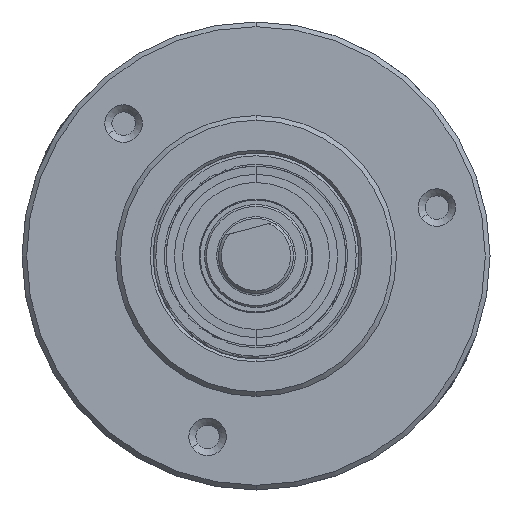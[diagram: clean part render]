
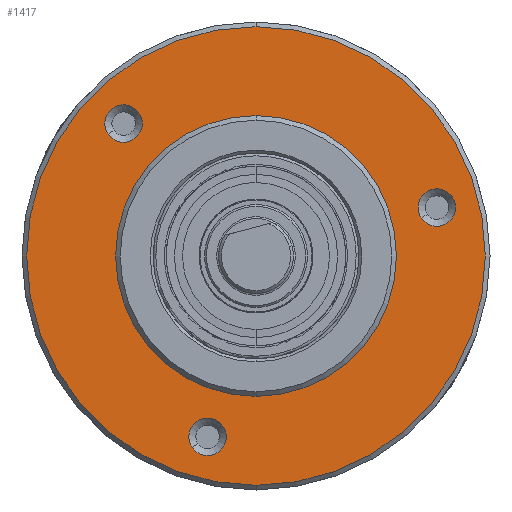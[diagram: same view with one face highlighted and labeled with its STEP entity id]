
A CAD part, front view. The second image highlights one B-rep face of the part: STEP entity #1417.
In plain terms, the highlighted planar face has unit normal (0, -1, 0).
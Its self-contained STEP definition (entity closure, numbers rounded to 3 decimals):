
#248 = CARTESIAN_POINT ( 'NONE',  ( -15.78, 0., 12.995 ) ) ;
#287 = VERTEX_POINT ( 'NONE', #6453 ) ;
#305 = CIRCLE ( 'NONE', #2558, 15. ) ;
#315 = DIRECTION ( 'NONE',  ( 0., 0., 1. ) ) ;
#523 = CARTESIAN_POINT ( 'NONE',  ( 20.957, 0., 6.324 ) ) ;
#537 = EDGE_CURVE ( 'NONE', #832, #287, #2506, .T. ) ;
#667 = ORIENTED_EDGE ( 'NONE', *, *, #5914, .F. ) ;
#717 = AXIS2_PLACEMENT_3D ( 'NONE', #1785, #6706, #6756 ) ;
#720 = EDGE_CURVE ( 'NONE', #287, #832, #5096, .T. ) ;
#766 = CARTESIAN_POINT ( 'NONE',  ( 0., 0., 0. ) ) ;
#790 = ORIENTED_EDGE ( 'NONE', *, *, #4645, .T. ) ;
#832 = VERTEX_POINT ( 'NONE', #7703 ) ;
#836 = DIRECTION ( 'NONE',  ( 0., 0., 1. ) ) ;
#900 = CIRCLE ( 'NONE', #1097, 2. ) ;
#919 = VERTEX_POINT ( 'NONE', #4742 ) ;
#1097 = AXIS2_PLACEMENT_3D ( 'NONE', #6429, #1636, #6507 ) ;
#1226 = EDGE_CURVE ( 'NONE', #919, #1577, #900, .T. ) ;
#1417 = ADVANCED_FACE ( 'NONE', ( #7181, #3377, #1462, #6215, #7653 ), #3126, .F. ) ;
#1462 = FACE_BOUND ( 'NONE', #6727, .T. ) ;
#1467 = CARTESIAN_POINT ( 'NONE',  ( 0., 0., 15. ) ) ;
#1577 = VERTEX_POINT ( 'NONE', #248 ) ;
#1636 = DIRECTION ( 'NONE',  ( 0., -1., 0. ) ) ;
#1665 = DIRECTION ( 'NONE',  ( 0., -1., 0. ) ) ;
#1785 = CARTESIAN_POINT ( 'NONE',  ( -14.142, 0., 14.142 ) ) ;
#1916 = CARTESIAN_POINT ( 'NONE',  ( -5.176, 0., -19.319 ) ) ;
#2132 = DIRECTION ( 'NONE',  ( 0., -1., 0. ) ) ;
#2194 = AXIS2_PLACEMENT_3D ( 'NONE', #5809, #4491, #315 ) ;
#2396 = ORIENTED_EDGE ( 'NONE', *, *, #1226, .F. ) ;
#2425 = DIRECTION ( 'NONE',  ( 0., -1., 0. ) ) ;
#2442 = CARTESIAN_POINT ( 'NONE',  ( 0., 0., -15. ) ) ;
#2502 = EDGE_LOOP ( 'NONE', ( #6826, #5332 ) ) ;
#2506 = CIRCLE ( 'NONE', #4237, 2. ) ;
#2558 = AXIS2_PLACEMENT_3D ( 'NONE', #766, #5063, #5006 ) ;
#2597 = DIRECTION ( 'NONE',  ( -0.819, 0., -0.574 ) ) ;
#2757 = VERTEX_POINT ( 'NONE', #523 ) ;
#2774 = DIRECTION ( 'NONE',  ( 0., 0., 1. ) ) ;
#3047 = VERTEX_POINT ( 'NONE', #5924 ) ;
#3126 = PLANE ( 'NONE',  #4755 ) ;
#3377 = FACE_BOUND ( 'NONE', #5349, .T. ) ;
#3494 = CARTESIAN_POINT ( 'NONE',  ( 19.319, 0., 5.176 ) ) ;
#3606 = DIRECTION ( 'NONE',  ( -0.819, 0., -0.574 ) ) ;
#3712 = CARTESIAN_POINT ( 'NONE',  ( 19.319, 0., 5.176 ) ) ;
#4195 = CARTESIAN_POINT ( 'NONE',  ( 0., 0., 24.5 ) ) ;
#4236 = ORIENTED_EDGE ( 'NONE', *, *, #4753, .T. ) ;
#4237 = AXIS2_PLACEMENT_3D ( 'NONE', #1916, #6719, #6127 ) ;
#4396 = CARTESIAN_POINT ( 'NONE',  ( -20., 0., 0. ) ) ;
#4408 = EDGE_CURVE ( 'NONE', #1577, #919, #7445, .T. ) ;
#4473 = CIRCLE ( 'NONE', #2194, 15. ) ;
#4491 = DIRECTION ( 'NONE',  ( 0., -1., 0. ) ) ;
#4504 = EDGE_CURVE ( 'NONE', #5080, #6859, #4473, .T. ) ;
#4645 = EDGE_CURVE ( 'NONE', #6568, #3047, #4954, .T. ) ;
#4742 = CARTESIAN_POINT ( 'NONE',  ( -12.504, 0., 15.289 ) ) ;
#4753 = EDGE_CURVE ( 'NONE', #3047, #6568, #7349, .T. ) ;
#4755 = AXIS2_PLACEMENT_3D ( 'NONE', #4396, #5568, #836 ) ;
#4954 = CIRCLE ( 'NONE', #5697, 24.5 ) ;
#5006 = DIRECTION ( 'NONE',  ( 0., 0., 1. ) ) ;
#5046 = CARTESIAN_POINT ( 'NONE',  ( -5.176, 0., -19.319 ) ) ;
#5063 = DIRECTION ( 'NONE',  ( 0., -1., 0. ) ) ;
#5069 = VERTEX_POINT ( 'NONE', #5424 ) ;
#5080 = VERTEX_POINT ( 'NONE', #2442 ) ;
#5096 = CIRCLE ( 'NONE', #5466, 2. ) ;
#5121 = DIRECTION ( 'NONE',  ( 0., 0., 1. ) ) ;
#5332 = ORIENTED_EDGE ( 'NONE', *, *, #537, .F. ) ;
#5349 = EDGE_LOOP ( 'NONE', ( #6998, #2396 ) ) ;
#5353 = DIRECTION ( 'NONE',  ( -0.819, 0., -0.574 ) ) ;
#5424 = CARTESIAN_POINT ( 'NONE',  ( 17.68, 0., 4.029 ) ) ;
#5466 = AXIS2_PLACEMENT_3D ( 'NONE', #5046, #7525, #2597 ) ;
#5513 = AXIS2_PLACEMENT_3D ( 'NONE', #3494, #1665, #5353 ) ;
#5568 = DIRECTION ( 'NONE',  ( 0., 1., 0. ) ) ;
#5697 = AXIS2_PLACEMENT_3D ( 'NONE', #6955, #2132, #5121 ) ;
#5745 = CIRCLE ( 'NONE', #7418, 2. ) ;
#5809 = CARTESIAN_POINT ( 'NONE',  ( 0., 0., 0. ) ) ;
#5914 = EDGE_CURVE ( 'NONE', #6859, #5080, #305, .T. ) ;
#5924 = CARTESIAN_POINT ( 'NONE',  ( 0., 0., -24.5 ) ) ;
#6031 = EDGE_LOOP ( 'NONE', ( #790, #4236 ) ) ;
#6086 = EDGE_LOOP ( 'NONE', ( #6966, #667 ) ) ;
#6127 = DIRECTION ( 'NONE',  ( -0.819, 0., -0.574 ) ) ;
#6172 = AXIS2_PLACEMENT_3D ( 'NONE', #7669, #7010, #2774 ) ;
#6215 = FACE_BOUND ( 'NONE', #2502, .T. ) ;
#6297 = ORIENTED_EDGE ( 'NONE', *, *, #6588, .F. ) ;
#6330 = EDGE_CURVE ( 'NONE', #2757, #5069, #6844, .T. ) ;
#6429 = CARTESIAN_POINT ( 'NONE',  ( -14.142, 0., 14.142 ) ) ;
#6453 = CARTESIAN_POINT ( 'NONE',  ( -6.815, 0., -20.466 ) ) ;
#6507 = DIRECTION ( 'NONE',  ( -0.819, 0., -0.574 ) ) ;
#6568 = VERTEX_POINT ( 'NONE', #4195 ) ;
#6588 = EDGE_CURVE ( 'NONE', #5069, #2757, #5745, .T. ) ;
#6706 = DIRECTION ( 'NONE',  ( 0., -1., 0. ) ) ;
#6719 = DIRECTION ( 'NONE',  ( 0., -1., 0. ) ) ;
#6727 = EDGE_LOOP ( 'NONE', ( #6297, #7600 ) ) ;
#6756 = DIRECTION ( 'NONE',  ( -0.819, 0., -0.574 ) ) ;
#6826 = ORIENTED_EDGE ( 'NONE', *, *, #720, .F. ) ;
#6844 = CIRCLE ( 'NONE', #5513, 2. ) ;
#6859 = VERTEX_POINT ( 'NONE', #1467 ) ;
#6955 = CARTESIAN_POINT ( 'NONE',  ( 0., 0., 0. ) ) ;
#6966 = ORIENTED_EDGE ( 'NONE', *, *, #4504, .F. ) ;
#6998 = ORIENTED_EDGE ( 'NONE', *, *, #4408, .F. ) ;
#7010 = DIRECTION ( 'NONE',  ( 0., -1., 0. ) ) ;
#7181 = FACE_OUTER_BOUND ( 'NONE', #6031, .T. ) ;
#7349 = CIRCLE ( 'NONE', #6172, 24.5 ) ;
#7418 = AXIS2_PLACEMENT_3D ( 'NONE', #3712, #2425, #3606 ) ;
#7445 = CIRCLE ( 'NONE', #717, 2. ) ;
#7525 = DIRECTION ( 'NONE',  ( 0., -1., 0. ) ) ;
#7600 = ORIENTED_EDGE ( 'NONE', *, *, #6330, .F. ) ;
#7653 = FACE_BOUND ( 'NONE', #6086, .T. ) ;
#7669 = CARTESIAN_POINT ( 'NONE',  ( 0., 0., 0. ) ) ;
#7703 = CARTESIAN_POINT ( 'NONE',  ( -3.538, 0., -18.171 ) ) ;
